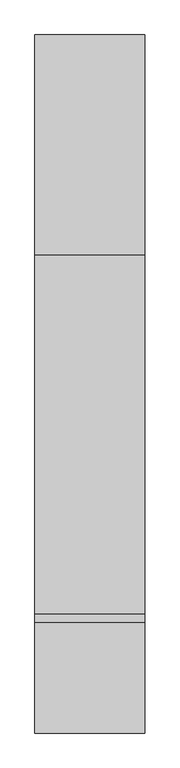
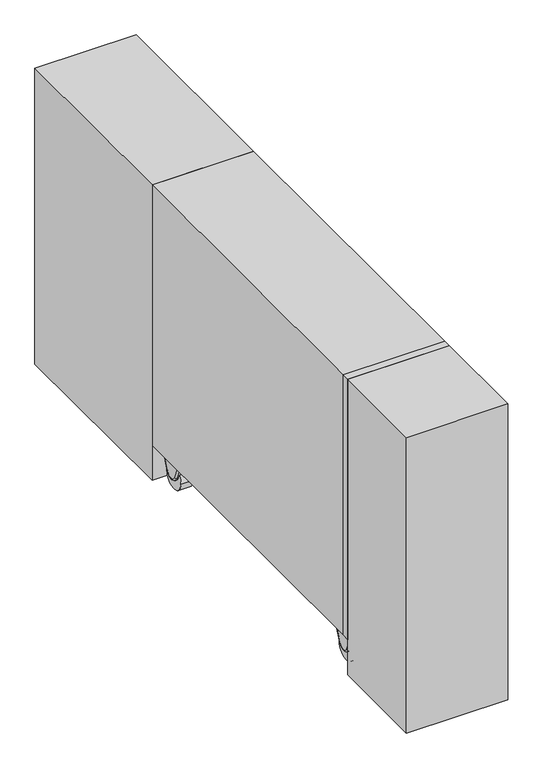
"""IFC4 building model written with IfcOpenShell, lengths in millimetres: proxy geometry, Трехфазный ИБП_ЛЕГИОН_СайберЭлектро : ЛЕГИОН-3Ф-40К."""

from ifc_helpers import new_model, si_unit, point, frame, origin, origin_with_axes, place, context, project, spatial, polyline, circle_curve, ellipse_curve, trimmed, outline, extrude, source, transform, mapped, element, save
from ifc_brep_helpers import plane_surface, cylinder_surface, revolved_surface, advanced_brep


def electrical_equipment_19901179(model_context):
    return source(origin(), model_context, "Body", "SolidModel", [
        advanced_brep(
        [(107.5584286, -22.026834, 73.0926887), (107.5584286, -31.2318826, 87.0), (107.5584286, -68.7681174, 87.0), (107.5584286, -77.973166, 73.0926887), (107.5584286, -63.8075728, 39.7206426), (107.5584286, -36.1924272, 39.7206426), (62.4415714, -31.2318826, 87.0), (62.4415714, -22.026834, 73.0926887), (62.4415714, -36.1924272, 39.7206426), (62.4415714, -63.8075728, 39.7206426), (62.4415714, -77.973166, 73.0926887), (62.4415714, -68.7681174, 87.0), (102.5584286, -31.2318826, 92.0), (67.4415641, -31.2318826, 92.0), (67.4415714, -68.7681174, 92.0), (102.5584286, -68.7681174, 92.0), (67.4415714, -82.5756902, 71.1390331), (102.5584286, -82.5756902, 71.1390331), (100.0, -73.1912444, 49.0306642), (100.0, -68.4100971, 37.7669869), (102.5584286, -68.4100971, 37.7669869), (67.4415714, -68.4100971, 37.7669869), (70.0, -68.4100971, 37.7669869), (70.0, -73.1912444, 49.0306642), (100.0, -31.5899029, 37.7669869), (102.5584286, -31.5899029, 37.7669869), (70.0, -31.5899029, 37.7669869), (67.4415714, -31.5899029, 37.7669869), (100.0, -26.8087556, 49.0306642), (70.0, -26.8087556, 49.0306642), (67.4415714, -17.4243098, 71.1390331), (102.5584286, -17.4243098, 71.1390331), (100.0, -80.0, 30.0), (100.0, -20.0, 30.0), (70.0, -20.0, 30.0), (70.0, -80.0, 30.0)],
        [
            (0, 1, circle_curve(frame((107.5584286, -31.2318826, 77.0), z_axis=(1.0, 0.0, 0.0), x_axis=(0.0, 0.0, 1.0)), 10.0)),
            (1, 2),
            (2, 3, circle_curve(frame((107.5584286, -68.7681174, 77.0), z_axis=(1.0, 0.0, 0.0), x_axis=(0.0, -0.9205048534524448, -0.3907311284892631)), 10.0)),
            (3, 4),
            (4, 5, circle_curve(frame((107.5584286, -50.0, 45.5816095), z_axis=(1.0, 0.0, 0.0), x_axis=(0.0, 0.9205048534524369, -0.3907311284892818)), 15.0)),
            (5, 0),
            (6, 7, circle_curve(frame((62.4415714, -31.2318826, 77.0), z_axis=(-1.0, 0.0, 0.0), x_axis=(0.0, 0.0, 1.0)), 10.0)),
            (7, 8),
            (8, 9, circle_curve(frame((62.4415714, -50.0, 45.5816095), z_axis=(-1.0, 0.0, 0.0), x_axis=(0.0, 0.9205048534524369, -0.3907311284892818)), 15.0)),
            (9, 10),
            (10, 11, circle_curve(frame((62.4415714, -68.7681174, 77.0), z_axis=(-1.0, 0.0, 0.0), x_axis=(0.0, -0.9205048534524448, -0.3907311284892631)), 10.0)),
            (11, 6),
            (12, 13),
            (13, 14),
            (14, 15),
            (15, 12),
            (14, 16, circle_curve(frame((67.4415714, -68.7681174, 77.0), z_axis=(1.0, 0.0, 0.0), x_axis=(0.0, 1.0, 0.0)), 15.0)),
            (16, 17),
            (17, 15, circle_curve(frame((102.5584286, -68.7681174, 77.0), z_axis=(-1.0, 0.0, 0.0), x_axis=(0.0, 1.0, 0.0)), 15.0)),
            (18, 19),
            (19, 20),
            (20, 17),
            (16, 21),
            (21, 22),
            (22, 23),
            (23, 18),
            (19, 24, circle_curve(frame((100.0, -50.0, 45.5816095), z_axis=(1.0, 0.0, 0.0), x_axis=(0.0, 1.0, 0.0)), 20.0)),
            (24, 25),
            (25, 20, circle_curve(frame((102.5584286, -50.0, 45.5816095), z_axis=(-1.0, 0.0, 0.0), x_axis=(0.0, 1.0, 0.0)), 20.0)),
            (26, 22, circle_curve(frame((70.0, -50.0, 45.5816095), z_axis=(-1.0, 0.0, 0.0), x_axis=(0.0, 1.0, 0.0)), 20.0)),
            (21, 27, circle_curve(frame((67.4415714, -50.0, 45.5816095), z_axis=(1.0, 0.0, 0.0), x_axis=(0.0, 1.0, 0.0)), 20.0)),
            (27, 26),
            (24, 28),
            (28, 29),
            (29, 26),
            (27, 30),
            (30, 31),
            (31, 25),
            (12, 31, circle_curve(frame((102.5584286, -31.2318826, 77.0), z_axis=(-1.0, 0.0, 0.0), x_axis=(0.0, 1.0, 0.0)), 15.0)),
            (30, 13, circle_curve(frame((67.4415714, -31.2318826, 77.0), z_axis=(1.0, 0.0, 0.0), x_axis=(0.0, 1.0, 0.0)), 15.0)),
            (32, 33, circle_curve(frame((100.0, -50.0, 30.0), z_axis=(1.0, 0.0, 0.0), x_axis=(0.0, -1.0, 0.0)), 30.0)),
            (33, 28, circle_curve(frame((100.0, -50.0, 30.0), z_axis=(1.0, 0.0, 0.0), x_axis=(0.0, -1.0, 0.0)), 30.0)),
            (18, 32, circle_curve(frame((100.0, -50.0, 30.0), z_axis=(1.0, 0.0, 0.0), x_axis=(0.0, -1.0, 0.0)), 30.0)),
            (34, 35, circle_curve(frame((70.0, -50.0, 30.0), z_axis=(-1.0, 0.0, 0.0), x_axis=(0.0, -1.0, 0.0)), 30.0)),
            (35, 23, circle_curve(frame((70.0, -50.0, 30.0), z_axis=(-1.0, 0.0, 0.0), x_axis=(0.0, -1.0, 0.0)), 30.0)),
            (29, 34, circle_curve(frame((70.0, -50.0, 30.0), z_axis=(-1.0, 0.0, 0.0), x_axis=(0.0, -1.0, 0.0)), 30.0)),
            (33, 34),
            (35, 32),
            (30, 7, circle_curve(frame((67.4415714, -22.026834, 73.0926887), z_axis=(0.0, 0.3907311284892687, 0.9205048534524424), x_axis=(-1.0, 0.0, 0.0)), 5.0)),
            (6, 13, circle_curve(frame((67.4415714, -31.2318826, 87.0), z_axis=(0.0, 1.0, 0.0), x_axis=(-1.0, 0.0, 0.0)), 5.0)),
            (0, 31, circle_curve(frame((102.5584286, -22.026834, 73.0926887), z_axis=(0.0, 0.3907311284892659, 0.9205048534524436), x_axis=(-1.0, 0.0, 0.0)), 5.0)),
            (12, 1, circle_curve(frame((102.5584286, -31.2318826, 87.0), z_axis=(0.0, 1.0, 0.0), x_axis=(-1.0, 0.0, 0.0)), 5.0)),
            (27, 8, circle_curve(frame((67.4415714, -36.1924272, 39.7206426), z_axis=(0.0, 0.3907311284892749, 0.9205048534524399), x_axis=(-1.0, 0.0, 0.0)), 5.0)),
            (5, 25, circle_curve(frame((102.5584286, -36.1924272, 39.7206426), z_axis=(0.0, 0.3907311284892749, 0.9205048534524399), x_axis=(-1.0, 0.0, 0.0)), 5.0)),
            (21, 9, circle_curve(frame((67.4415714, -63.8075728, 39.7206426), z_axis=(0.0, 0.39073112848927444, -0.9205048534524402), x_axis=(-1.0, 0.0, 0.0)), 5.0)),
            (4, 20, circle_curve(frame((102.5584286, -63.8075728, 39.7206426), z_axis=(0.0, 0.39073112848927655, -0.9205048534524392), x_axis=(-1.0, 0.0, 0.0)), 5.0)),
            (16, 10, circle_curve(frame((67.4415714, -77.973166, 73.0926887), z_axis=(0.0, 0.39073112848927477, -0.92050485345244), x_axis=(-1.0, 0.0, 0.0)), 5.0)),
            (3, 17, circle_curve(frame((102.5584286, -77.973166, 73.0926887), z_axis=(0.0, 0.39073112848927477, -0.92050485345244), x_axis=(-1.0, 0.0, 0.0)), 5.0)),
            (14, 11, circle_curve(frame((67.4415714, -68.7681174, 87.0), z_axis=(0.0, -1.0, 0.0), x_axis=(-1.0, 0.0, 0.0)), 5.0)),
            (2, 15, circle_curve(frame((102.5584286, -68.7681174, 87.0), z_axis=(0.0, -1.0, 0.0), x_axis=(-1.0, 0.0, 0.0)), 5.0)),
        ],
        [
            plane_surface(frame((107.5584286, -50.0, 92.0), z_axis=(1.0, 0.0, 0.0), x_axis=(0.0, -1.0, 0.0))),
            plane_surface(frame((62.4415714, -50.0, 92.0), z_axis=(-1.0, 0.0, 0.0), x_axis=(0.0, 1.0, 0.0))),
            plane_surface(frame((107.5584286, -31.2318826, 92.0), z_axis=(0.0, 0.0, 1.0), x_axis=(-1.0, 0.0, 0.0))),
            cylinder_surface(frame((62.4415714, -68.7681174, 77.0), z_axis=(1.0, 0.0, 0.0), x_axis=(0.0, 1.0, 0.0)), 15.0),
            plane_surface(frame((107.5584286, -82.5756902, 71.1390331), z_axis=(0.0, -0.9205048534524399, -0.39073112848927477), x_axis=(-1.0, 0.0, 0.0))),
            cylinder_surface(frame((62.4415714, -50.0, 45.5816095), z_axis=(1.0, 0.0, 0.0), x_axis=(0.0, 1.0, 0.0)), 20.0),
            plane_surface(frame((107.5584286, -31.5899029, 37.7669869), z_axis=(0.0, 0.9205048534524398, -0.3907311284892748), x_axis=(-1.0, 0.0, 0.0))),
            cylinder_surface(frame((62.4415714, -31.2318826, 77.0), z_axis=(1.0, 0.0, 0.0), x_axis=(0.0, 1.0, 0.0)), 15.0),
            plane_surface(frame((100.0, -80.0, 30.0), z_axis=(1.0, 0.0, 0.0), x_axis=(0.0, 0.0, -1.0))),
            plane_surface(frame((70.0, -80.0, 30.0), z_axis=(-1.0, 0.0, 0.0), x_axis=(0.0, 0.0, 1.0))),
            cylinder_surface(frame((70.0, -50.0, 30.0), z_axis=(1.0, 0.0, 0.0), x_axis=(0.0, -1.0, 0.0)), 30.0),
            revolved_surface(trimmed(ellipse_curve(frame((67.4415714, -31.2318826, 87.0), z_axis=(0.0, -1.0, 0.0), x_axis=(-1.0, 0.0, 0.0)), 5.0, 5.0), [point((67.4415714, -31.2318826, 92.0))], [point((62.4415714, -31.2318826, 87.0))], True, "CARTESIAN"), (62.4415714, -31.2318826, 77.0), (-1.0, 0.0, 0.0)),
            revolved_surface(trimmed(ellipse_curve(frame((102.5584286, -31.2318826, 87.0), z_axis=(0.0, -1.0, 0.0), x_axis=(-1.0, 0.0, 0.0)), 5.0, 5.0), [point((107.5584286, -31.2318826, 87.0))], [point((102.5584286, -31.2318826, 92.0))], True, "CARTESIAN"), (62.4415714, -31.2318826, 77.0), (-1.0, 0.0, 0.0)),
            cylinder_surface(frame((67.4415714, -22.026834, 73.0926887), z_axis=(0.0, -0.3907311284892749, -0.9205048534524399), x_axis=(-1.0, 0.0, 0.0)), 5.0),
            cylinder_surface(frame((102.5584286, -22.026834, 73.0926887), z_axis=(0.0, -0.3907311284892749, -0.9205048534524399), x_axis=(-1.0, 0.0, 0.0)), 5.0),
            revolved_surface(trimmed(ellipse_curve(frame((67.4415714, -36.1924272, 39.7206426), z_axis=(0.0, 0.39073112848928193, 0.9205048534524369), x_axis=(-1.0, 0.0, 0.0)), 5.0, 5.0), [point((67.4415714, -31.5899029, 37.7669869))], [point((62.4415714, -36.1924272, 39.7206426))], True, "CARTESIAN"), (62.4415714, -50.0, 45.5816095), (-1.0, 0.0, 0.0)),
            revolved_surface(trimmed(ellipse_curve(frame((102.5584286, -36.1924272, 39.7206426), z_axis=(0.0, 0.39073112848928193, 0.9205048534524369), x_axis=(-1.0, 0.0, 0.0)), 5.0, 5.0), [point((107.5584286, -36.1924272, 39.7206426))], [point((102.5584286, -31.5899029, 37.7669869))], True, "CARTESIAN"), (62.4415714, -50.0, 45.5816095), (-1.0, 0.0, 0.0)),
            cylinder_surface(frame((67.4415714, -63.8075728, 39.7206426), z_axis=(0.0, -0.39073112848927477, 0.92050485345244), x_axis=(-1.0, 0.0, 0.0)), 5.0),
            cylinder_surface(frame((102.5584286, -63.8075728, 39.7206426), z_axis=(0.0, -0.39073112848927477, 0.92050485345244), x_axis=(-1.0, 0.0, 0.0)), 5.0),
            revolved_surface(trimmed(ellipse_curve(frame((67.4415714, -77.973166, 73.0926887), z_axis=(0.0, 0.39073112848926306, -0.9205048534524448), x_axis=(-1.0, 0.0, 0.0)), 5.0, 5.0), [point((67.4415714, -82.5756902, 71.1390331))], [point((62.4415714, -77.973166, 73.0926887))], True, "CARTESIAN"), (62.4415714, -68.7681174, 77.0), (-1.0, 0.0, 0.0)),
            revolved_surface(trimmed(ellipse_curve(frame((102.5584286, -77.973166, 73.0926887), z_axis=(0.0, 0.39073112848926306, -0.9205048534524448), x_axis=(-1.0, 0.0, 0.0)), 5.0, 5.0), [point((107.5584286, -77.973166, 73.0926887))], [point((102.5584286, -82.5756902, 71.1390331))], True, "CARTESIAN"), (62.4415714, -68.7681174, 77.0), (-1.0, 0.0, 0.0)),
            cylinder_surface(frame((67.4415714, -68.7681174, 87.0), z_axis=(0.0, 1.0, 0.0), x_axis=(-1.0, 0.0, 0.0)), 5.0),
            cylinder_surface(frame((102.5584286, -68.7681174, 87.0), z_axis=(0.0, 1.0, 0.0), x_axis=(-1.0, 0.0, 0.0)), 5.0),
        ],
        [
            (0, [[1, 2, 3, 4, 5, 6]]),
            (1, [[7, 8, 9, 10, 11, 12]]),
            (2, [[13, 14, 15, 16]]),
            (3, [[-15, 17, 18, 19]]),
            (4, [[20, 21, 22, -18, 23, 24, 25, 26]]),
            (5, [[27, 28, 29, -21]]),
            (5, [[30, -24, 31, 32]]),
            (6, [[33, 34, 35, -32, 36, 37, 38, -28]]),
            (7, [[-13, 39, -37, 40]]),
            (8, [[41, 42, -33, -27, -20, 43]]),
            (9, [[44, 45, -25, -30, -35, 46]]),
            (10, [[47, -46, -34, -42]]),
            (10, [[48, -43, -26, -45]]),
            (10, [[-41, -48, -44, -47]]),
            (11, [[49, -7, 50, -40]]),
            (12, [[51, -39, 52, -1]]),
            (13, [[-49, -36, 53, -8]]),
            (14, [[-51, -6, 54, -38]]),
            (15, [[-53, -31, 55, -9]]),
            (16, [[-54, -5, 56, -29]]),
            (17, [[-55, -23, 57, -10]]),
            (18, [[-56, -4, 58, -22]]),
            (19, [[-57, -17, 59, -11]]),
            (20, [[-58, -3, 60, -19]]),
            (21, [[-50, -12, -59, -14]]),
            (22, [[-52, -16, -60, -2]]),
        ],
    ),
        advanced_brep(
        [(-62.4415714, -22.026834, 73.0926887), (-62.4415714, -31.2318826, 87.0), (-62.4415714, -68.7681174, 87.0), (-62.4415714, -77.973166, 73.0926887), (-62.4415714, -63.8075728, 39.7206426), (-62.4415714, -36.1924272, 39.7206426), (-107.5584286, -31.2318826, 87.0), (-107.5584286, -22.026834, 73.0926887), (-107.5584286, -36.1924272, 39.7206426), (-107.5584286, -63.8075728, 39.7206426), (-107.5584286, -77.973166, 73.0926887), (-107.5584286, -68.7681174, 87.0), (-67.4415714, -31.2318826, 92.0), (-102.5584359, -31.2318826, 92.0), (-102.5584286, -68.7681174, 92.0), (-67.4415714, -68.7681174, 92.0), (-102.5584286, -82.5756902, 71.1390331), (-67.4415714, -82.5756902, 71.1390331), (-70.0, -73.1912444, 49.0306642), (-70.0, -68.4100971, 37.7669869), (-67.4415714, -68.4100971, 37.7669869), (-102.5584286, -68.4100971, 37.7669869), (-100.0, -68.4100971, 37.7669869), (-100.0, -73.1912444, 49.0306642), (-70.0, -31.5899029, 37.7669869), (-67.4415714, -31.5899029, 37.7669869), (-100.0, -31.5899029, 37.7669869), (-102.5584286, -31.5899029, 37.7669869), (-70.0, -26.8087556, 49.0306642), (-100.0, -26.8087556, 49.0306642), (-102.5584286, -17.4243098, 71.1390331), (-67.4415714, -17.4243098, 71.1390331), (-70.0, -80.0, 30.0), (-70.0, -20.0, 30.0), (-100.0, -20.0, 30.0), (-100.0, -80.0, 30.0)],
        [
            (0, 1, circle_curve(frame((-62.4415714, -31.2318826, 77.0), z_axis=(1.0, 0.0, 0.0), x_axis=(0.0, 0.0, 1.0)), 10.0)),
            (1, 2),
            (2, 3, circle_curve(frame((-62.4415714, -68.7681174, 77.0), z_axis=(1.0, 0.0, 0.0), x_axis=(0.0, -0.9205048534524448, -0.3907311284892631)), 10.0)),
            (3, 4),
            (4, 5, circle_curve(frame((-62.4415714, -50.0, 45.5816095), z_axis=(1.0, 0.0, 0.0), x_axis=(0.0, 0.9205048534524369, -0.3907311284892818)), 15.0)),
            (5, 0),
            (6, 7, circle_curve(frame((-107.5584286, -31.2318826, 77.0), z_axis=(-1.0, 0.0, 0.0), x_axis=(0.0, 0.0, 1.0)), 10.0)),
            (7, 8),
            (8, 9, circle_curve(frame((-107.5584286, -50.0, 45.5816095), z_axis=(-1.0, 0.0, 0.0), x_axis=(0.0, 0.9205048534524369, -0.3907311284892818)), 15.0)),
            (9, 10),
            (10, 11, circle_curve(frame((-107.5584286, -68.7681174, 77.0), z_axis=(-1.0, 0.0, 0.0), x_axis=(0.0, -0.9205048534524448, -0.3907311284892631)), 10.0)),
            (11, 6),
            (12, 13),
            (13, 14),
            (14, 15),
            (15, 12),
            (14, 16, circle_curve(frame((-102.5584286, -68.7681174, 77.0), z_axis=(1.0, 0.0, 0.0), x_axis=(0.0, 1.0, 0.0)), 15.0)),
            (16, 17),
            (17, 15, circle_curve(frame((-67.4415714, -68.7681174, 77.0), z_axis=(-1.0, 0.0, 0.0), x_axis=(0.0, 1.0, 0.0)), 15.0)),
            (18, 19),
            (19, 20),
            (20, 17),
            (16, 21),
            (21, 22),
            (22, 23),
            (23, 18),
            (19, 24, circle_curve(frame((-70.0, -50.0, 45.5816095), z_axis=(1.0, 0.0, 0.0), x_axis=(0.0, 1.0, 0.0)), 20.0)),
            (24, 25),
            (25, 20, circle_curve(frame((-67.4415714, -50.0, 45.5816095), z_axis=(-1.0, 0.0, 0.0), x_axis=(0.0, 1.0, 0.0)), 20.0)),
            (26, 22, circle_curve(frame((-100.0, -50.0, 45.5816095), z_axis=(-1.0, 0.0, 0.0), x_axis=(0.0, 1.0, 0.0)), 20.0)),
            (21, 27, circle_curve(frame((-102.5584286, -50.0, 45.5816095), z_axis=(1.0, 0.0, 0.0), x_axis=(0.0, 1.0, 0.0)), 20.0)),
            (27, 26),
            (24, 28),
            (28, 29),
            (29, 26),
            (27, 30),
            (30, 31),
            (31, 25),
            (12, 31, circle_curve(frame((-67.4415714, -31.2318826, 77.0), z_axis=(-1.0, 0.0, 0.0), x_axis=(0.0, 1.0, 0.0)), 15.0)),
            (30, 13, circle_curve(frame((-102.5584286, -31.2318826, 77.0), z_axis=(1.0, 0.0, 0.0), x_axis=(0.0, 1.0, 0.0)), 15.0)),
            (32, 33, circle_curve(frame((-70.0, -50.0, 30.0), z_axis=(1.0, 0.0, 0.0), x_axis=(0.0, -1.0, 0.0)), 30.0)),
            (33, 28, circle_curve(frame((-70.0, -50.0, 30.0), z_axis=(1.0, 0.0, 0.0), x_axis=(0.0, -1.0, 0.0)), 30.0)),
            (18, 32, circle_curve(frame((-70.0, -50.0, 30.0), z_axis=(1.0, 0.0, 0.0), x_axis=(0.0, -1.0, 0.0)), 30.0)),
            (34, 35, circle_curve(frame((-100.0, -50.0, 30.0), z_axis=(-1.0, 0.0, 0.0), x_axis=(0.0, -1.0, 0.0)), 30.0)),
            (35, 23, circle_curve(frame((-100.0, -50.0, 30.0), z_axis=(-1.0, 0.0, 0.0), x_axis=(0.0, -1.0, 0.0)), 30.0)),
            (29, 34, circle_curve(frame((-100.0, -50.0, 30.0), z_axis=(-1.0, 0.0, 0.0), x_axis=(0.0, -1.0, 0.0)), 30.0)),
            (33, 34),
            (35, 32),
            (30, 7, circle_curve(frame((-102.5584286, -22.026834, 73.0926887), z_axis=(0.0, 0.3907311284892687, 0.9205048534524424), x_axis=(-1.0, 0.0, 0.0)), 5.0)),
            (6, 13, circle_curve(frame((-102.5584286, -31.2318826, 87.0), z_axis=(0.0, 1.0, 0.0), x_axis=(-1.0, 0.0, 0.0)), 5.0)),
            (0, 31, circle_curve(frame((-67.4415714, -22.026834, 73.0926887), z_axis=(0.0, 0.3907311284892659, 0.9205048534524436), x_axis=(-1.0, 0.0, 0.0)), 5.0)),
            (12, 1, circle_curve(frame((-67.4415714, -31.2318826, 87.0), z_axis=(0.0, 1.0, 0.0), x_axis=(-1.0, 0.0, 0.0)), 5.0)),
            (27, 8, circle_curve(frame((-102.5584286, -36.1924272, 39.7206426), z_axis=(0.0, 0.3907311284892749, 0.9205048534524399), x_axis=(-1.0, 0.0, 0.0)), 5.0)),
            (5, 25, circle_curve(frame((-67.4415714, -36.1924272, 39.7206426), z_axis=(0.0, 0.3907311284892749, 0.9205048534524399), x_axis=(-1.0, 0.0, 0.0)), 5.0)),
            (21, 9, circle_curve(frame((-102.5584286, -63.8075728, 39.7206426), z_axis=(0.0, 0.39073112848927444, -0.9205048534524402), x_axis=(-1.0, 0.0, 0.0)), 5.0)),
            (4, 20, circle_curve(frame((-67.4415714, -63.8075728, 39.7206426), z_axis=(0.0, 0.39073112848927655, -0.9205048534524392), x_axis=(-1.0, 0.0, 0.0)), 5.0)),
            (16, 10, circle_curve(frame((-102.5584286, -77.973166, 73.0926887), z_axis=(0.0, 0.39073112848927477, -0.92050485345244), x_axis=(-1.0, 0.0, 0.0)), 5.0)),
            (3, 17, circle_curve(frame((-67.4415714, -77.973166, 73.0926887), z_axis=(0.0, 0.39073112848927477, -0.92050485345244), x_axis=(-1.0, 0.0, 0.0)), 5.0)),
            (14, 11, circle_curve(frame((-102.5584286, -68.7681174, 87.0), z_axis=(0.0, -1.0, 0.0), x_axis=(-1.0, 0.0, 0.0)), 5.0)),
            (2, 15, circle_curve(frame((-67.4415714, -68.7681174, 87.0), z_axis=(0.0, -1.0, 0.0), x_axis=(-1.0, 0.0, 0.0)), 5.0)),
        ],
        [
            plane_surface(frame((-62.4415714, -50.0, 92.0), z_axis=(1.0, 0.0, 0.0), x_axis=(0.0, -1.0, 0.0))),
            plane_surface(frame((-107.5584286, -50.0, 92.0), z_axis=(-1.0, 0.0, 0.0), x_axis=(0.0, 1.0, 0.0))),
            plane_surface(frame((-62.4415714, -31.2318826, 92.0), z_axis=(0.0, 0.0, 1.0), x_axis=(-1.0, 0.0, 0.0))),
            cylinder_surface(frame((-107.5584286, -68.7681174, 77.0), z_axis=(1.0, 0.0, 0.0), x_axis=(0.0, 1.0, 0.0)), 15.0),
            plane_surface(frame((-62.4415714, -82.5756902, 71.1390331), z_axis=(0.0, -0.9205048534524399, -0.39073112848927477), x_axis=(-1.0, 0.0, 0.0))),
            cylinder_surface(frame((-107.5584286, -50.0, 45.5816095), z_axis=(1.0, 0.0, 0.0), x_axis=(0.0, 1.0, 0.0)), 20.0),
            plane_surface(frame((-62.4415714, -31.5899029, 37.7669869), z_axis=(0.0, 0.9205048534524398, -0.3907311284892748), x_axis=(-1.0, 0.0, 0.0))),
            cylinder_surface(frame((-107.5584286, -31.2318826, 77.0), z_axis=(1.0, 0.0, 0.0), x_axis=(0.0, 1.0, 0.0)), 15.0),
            plane_surface(frame((-70.0, -80.0, 30.0), z_axis=(1.0, 0.0, 0.0), x_axis=(0.0, 0.0, -1.0))),
            plane_surface(frame((-100.0, -80.0, 30.0), z_axis=(-1.0, 0.0, 0.0), x_axis=(0.0, 0.0, 1.0))),
            cylinder_surface(frame((-100.0, -50.0, 30.0), z_axis=(1.0, 0.0, 0.0), x_axis=(0.0, -1.0, 0.0)), 30.0),
            revolved_surface(trimmed(ellipse_curve(frame((-102.5584286, -31.2318826, 87.0), z_axis=(0.0, -1.0, 0.0), x_axis=(-1.0, 0.0, 0.0)), 5.0, 5.0), [point((-102.5584286, -31.2318826, 92.0))], [point((-107.5584286, -31.2318826, 87.0))], True, "CARTESIAN"), (-107.5584286, -31.2318826, 77.0), (-1.0, 0.0, 0.0)),
            revolved_surface(trimmed(ellipse_curve(frame((-67.4415714, -31.2318826, 87.0), z_axis=(0.0, -1.0, 0.0), x_axis=(-1.0, 0.0, 0.0)), 5.0, 5.0), [point((-62.4415714, -31.2318826, 87.0))], [point((-67.4415714, -31.2318826, 92.0))], True, "CARTESIAN"), (-107.5584286, -31.2318826, 77.0), (-1.0, 0.0, 0.0)),
            cylinder_surface(frame((-102.5584286, -22.026834, 73.0926887), z_axis=(0.0, -0.3907311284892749, -0.9205048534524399), x_axis=(-1.0, 0.0, 0.0)), 5.0),
            cylinder_surface(frame((-67.4415714, -22.026834, 73.0926887), z_axis=(0.0, -0.3907311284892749, -0.9205048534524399), x_axis=(-1.0, 0.0, 0.0)), 5.0),
            revolved_surface(trimmed(ellipse_curve(frame((-102.5584286, -36.1924272, 39.7206426), z_axis=(0.0, 0.39073112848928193, 0.9205048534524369), x_axis=(-1.0, 0.0, 0.0)), 5.0, 5.0), [point((-102.5584286, -31.5899029, 37.7669869))], [point((-107.5584286, -36.1924272, 39.7206426))], True, "CARTESIAN"), (-107.5584286, -50.0, 45.5816095), (-1.0, 0.0, 0.0)),
            revolved_surface(trimmed(ellipse_curve(frame((-67.4415714, -36.1924272, 39.7206426), z_axis=(0.0, 0.39073112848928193, 0.9205048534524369), x_axis=(-1.0, 0.0, 0.0)), 5.0, 5.0), [point((-62.4415714, -36.1924272, 39.7206426))], [point((-67.4415714, -31.5899029, 37.7669869))], True, "CARTESIAN"), (-107.5584286, -50.0, 45.5816095), (-1.0, 0.0, 0.0)),
            cylinder_surface(frame((-102.5584286, -63.8075728, 39.7206426), z_axis=(0.0, -0.39073112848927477, 0.92050485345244), x_axis=(-1.0, 0.0, 0.0)), 5.0),
            cylinder_surface(frame((-67.4415714, -63.8075728, 39.7206426), z_axis=(0.0, -0.39073112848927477, 0.92050485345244), x_axis=(-1.0, 0.0, 0.0)), 5.0),
            revolved_surface(trimmed(ellipse_curve(frame((-102.5584286, -77.973166, 73.0926887), z_axis=(0.0, 0.39073112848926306, -0.9205048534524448), x_axis=(-1.0, 0.0, 0.0)), 5.0, 5.0), [point((-102.5584286, -82.5756902, 71.1390331))], [point((-107.5584286, -77.973166, 73.0926887))], True, "CARTESIAN"), (-107.5584286, -68.7681174, 77.0), (-1.0, 0.0, 0.0)),
            revolved_surface(trimmed(ellipse_curve(frame((-67.4415714, -77.973166, 73.0926887), z_axis=(0.0, 0.39073112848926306, -0.9205048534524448), x_axis=(-1.0, 0.0, 0.0)), 5.0, 5.0), [point((-62.4415714, -77.973166, 73.0926887))], [point((-67.4415714, -82.5756902, 71.1390331))], True, "CARTESIAN"), (-107.5584286, -68.7681174, 77.0), (-1.0, 0.0, 0.0)),
            cylinder_surface(frame((-102.5584286, -68.7681174, 87.0), z_axis=(0.0, 1.0, 0.0), x_axis=(-1.0, 0.0, 0.0)), 5.0),
            cylinder_surface(frame((-67.4415714, -68.7681174, 87.0), z_axis=(0.0, 1.0, 0.0), x_axis=(-1.0, 0.0, 0.0)), 5.0),
        ],
        [
            (0, [[1, 2, 3, 4, 5, 6]]),
            (1, [[7, 8, 9, 10, 11, 12]]),
            (2, [[13, 14, 15, 16]]),
            (3, [[-15, 17, 18, 19]]),
            (4, [[20, 21, 22, -18, 23, 24, 25, 26]]),
            (5, [[27, 28, 29, -21]]),
            (5, [[30, -24, 31, 32]]),
            (6, [[33, 34, 35, -32, 36, 37, 38, -28]]),
            (7, [[-13, 39, -37, 40]]),
            (8, [[41, 42, -33, -27, -20, 43]]),
            (9, [[44, 45, -25, -30, -35, 46]]),
            (10, [[47, -46, -34, -42]]),
            (10, [[48, -43, -26, -45]]),
            (10, [[-41, -48, -44, -47]]),
            (11, [[49, -7, 50, -40]]),
            (12, [[51, -39, 52, -1]]),
            (13, [[-49, -36, 53, -8]]),
            (14, [[-51, -6, 54, -38]]),
            (15, [[-53, -31, 55, -9]]),
            (16, [[-54, -5, 56, -29]]),
            (17, [[-55, -23, 57, -10]]),
            (18, [[-56, -4, 58, -22]]),
            (19, [[-57, -17, 59, -11]]),
            (20, [[-58, -3, 60, -19]]),
            (21, [[-50, -12, -59, -14]]),
            (22, [[-52, -16, -60, -2]]),
        ],
    ),
        advanced_brep(
        [(107.5584286, -758.026834, 73.0926887), (107.5584286, -767.2318826, 87.0), (107.5584286, -804.7681174, 87.0), (107.5584286, -813.973166, 73.0926887), (107.5584286, -799.8075728, 39.7206426), (107.5584286, -772.1924272, 39.7206426), (62.4415714, -767.2318826, 87.0), (62.4415714, -758.026834, 73.0926887), (62.4415714, -772.1924272, 39.7206426), (62.4415714, -799.8075728, 39.7206426), (62.4415714, -813.973166, 73.0926887), (62.4415714, -804.7681174, 87.0), (102.5584286, -767.2318826, 92.0), (67.4415641, -767.2318826, 92.0), (67.4415714, -804.7681174, 92.0), (102.5584286, -804.7681174, 92.0), (67.4415714, -818.5756902, 71.1390331), (102.5584286, -818.5756902, 71.1390331), (100.0, -809.1912444, 49.0306642), (100.0, -804.4100971, 37.7669869), (102.5584286, -804.4100971, 37.7669869), (67.4415714, -804.4100971, 37.7669869), (70.0, -804.4100971, 37.7669869), (70.0, -809.1912444, 49.0306642), (100.0, -767.5899029, 37.7669869), (102.5584286, -767.5899029, 37.7669869), (70.0, -767.5899029, 37.7669869), (67.4415714, -767.5899029, 37.7669869), (100.0, -762.8087556, 49.0306642), (70.0, -762.8087556, 49.0306642), (67.4415714, -753.4243098, 71.1390331), (102.5584286, -753.4243098, 71.1390331), (100.0, -816.0, 30.0), (100.0, -756.0, 30.0), (70.0, -756.0, 30.0), (70.0, -816.0, 30.0)],
        [
            (0, 1, circle_curve(frame((107.5584286, -767.2318826, 77.0), z_axis=(1.0, 0.0, 0.0), x_axis=(0.0, 0.0, 1.0)), 10.0)),
            (1, 2),
            (2, 3, circle_curve(frame((107.5584286, -804.7681174, 77.0), z_axis=(1.0, 0.0, 0.0), x_axis=(0.0, -0.9205048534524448, -0.3907311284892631)), 10.0)),
            (3, 4),
            (4, 5, circle_curve(frame((107.5584286, -786.0, 45.5816095), z_axis=(1.0, 0.0, 0.0), x_axis=(0.0, 0.9205048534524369, -0.3907311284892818)), 15.0)),
            (5, 0),
            (6, 7, circle_curve(frame((62.4415714, -767.2318826, 77.0), z_axis=(-1.0, 0.0, 0.0), x_axis=(0.0, 0.0, 1.0)), 10.0)),
            (7, 8),
            (8, 9, circle_curve(frame((62.4415714, -786.0, 45.5816095), z_axis=(-1.0, 0.0, 0.0), x_axis=(0.0, 0.9205048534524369, -0.3907311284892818)), 15.0)),
            (9, 10),
            (10, 11, circle_curve(frame((62.4415714, -804.7681174, 77.0), z_axis=(-1.0, 0.0, 0.0), x_axis=(0.0, -0.9205048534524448, -0.3907311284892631)), 10.0)),
            (11, 6),
            (12, 13),
            (13, 14),
            (14, 15),
            (15, 12),
            (14, 16, circle_curve(frame((67.4415714, -804.7681174, 77.0), z_axis=(1.0, 0.0, 0.0), x_axis=(0.0, 1.0, 0.0)), 15.0)),
            (16, 17),
            (17, 15, circle_curve(frame((102.5584286, -804.7681174, 77.0), z_axis=(-1.0, 0.0, 0.0), x_axis=(0.0, 1.0, 0.0)), 15.0)),
            (18, 19),
            (19, 20),
            (20, 17),
            (16, 21),
            (21, 22),
            (22, 23),
            (23, 18),
            (19, 24, circle_curve(frame((100.0, -786.0, 45.5816095), z_axis=(1.0, 0.0, 0.0), x_axis=(0.0, 1.0, 0.0)), 20.0)),
            (24, 25),
            (25, 20, circle_curve(frame((102.5584286, -786.0, 45.5816095), z_axis=(-1.0, 0.0, 0.0), x_axis=(0.0, 1.0, 0.0)), 20.0)),
            (26, 22, circle_curve(frame((70.0, -786.0, 45.5816095), z_axis=(-1.0, 0.0, 0.0), x_axis=(0.0, 1.0, 0.0)), 20.0)),
            (21, 27, circle_curve(frame((67.4415714, -786.0, 45.5816095), z_axis=(1.0, 0.0, 0.0), x_axis=(0.0, 1.0, 0.0)), 20.0)),
            (27, 26),
            (24, 28),
            (28, 29),
            (29, 26),
            (27, 30),
            (30, 31),
            (31, 25),
            (12, 31, circle_curve(frame((102.5584286, -767.2318826, 77.0), z_axis=(-1.0, 0.0, 0.0), x_axis=(0.0, 1.0, 0.0)), 15.0)),
            (30, 13, circle_curve(frame((67.4415714, -767.2318826, 77.0), z_axis=(1.0, 0.0, 0.0), x_axis=(0.0, 1.0, 0.0)), 15.0)),
            (32, 33, circle_curve(frame((100.0, -786.0, 30.0), z_axis=(1.0, 0.0, 0.0), x_axis=(0.0, -1.0, 0.0)), 30.0)),
            (33, 28, circle_curve(frame((100.0, -786.0, 30.0), z_axis=(1.0, 0.0, 0.0), x_axis=(0.0, -1.0, 0.0)), 30.0)),
            (18, 32, circle_curve(frame((100.0, -786.0, 30.0), z_axis=(1.0, 0.0, 0.0), x_axis=(0.0, -1.0, 0.0)), 30.0)),
            (34, 35, circle_curve(frame((70.0, -786.0, 30.0), z_axis=(-1.0, 0.0, 0.0), x_axis=(0.0, -1.0, 0.0)), 30.0)),
            (35, 23, circle_curve(frame((70.0, -786.0, 30.0), z_axis=(-1.0, 0.0, 0.0), x_axis=(0.0, -1.0, 0.0)), 30.0)),
            (29, 34, circle_curve(frame((70.0, -786.0, 30.0), z_axis=(-1.0, 0.0, 0.0), x_axis=(0.0, -1.0, 0.0)), 30.0)),
            (33, 34),
            (35, 32),
            (30, 7, circle_curve(frame((67.4415714, -758.026834, 73.0926887), z_axis=(0.0, 0.3907311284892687, 0.9205048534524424), x_axis=(-1.0, 0.0, 0.0)), 5.0)),
            (6, 13, circle_curve(frame((67.4415714, -767.2318826, 87.0), z_axis=(0.0, 1.0, 0.0), x_axis=(-1.0, 0.0, 0.0)), 5.0)),
            (0, 31, circle_curve(frame((102.5584286, -758.026834, 73.0926887), z_axis=(0.0, 0.3907311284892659, 0.9205048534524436), x_axis=(-1.0, 0.0, 0.0)), 5.0)),
            (12, 1, circle_curve(frame((102.5584286, -767.2318826, 87.0), z_axis=(0.0, 1.0, 0.0), x_axis=(-1.0, 0.0, 0.0)), 5.0)),
            (27, 8, circle_curve(frame((67.4415714, -772.1924272, 39.7206426), z_axis=(0.0, 0.3907311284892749, 0.9205048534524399), x_axis=(-1.0, 0.0, 0.0)), 5.0)),
            (5, 25, circle_curve(frame((102.5584286, -772.1924272, 39.7206426), z_axis=(0.0, 0.3907311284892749, 0.9205048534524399), x_axis=(-1.0, 0.0, 0.0)), 5.0)),
            (21, 9, circle_curve(frame((67.4415714, -799.8075728, 39.7206426), z_axis=(0.0, 0.39073112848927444, -0.9205048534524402), x_axis=(-1.0, 0.0, 0.0)), 5.0)),
            (4, 20, circle_curve(frame((102.5584286, -799.8075728, 39.7206426), z_axis=(0.0, 0.39073112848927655, -0.9205048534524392), x_axis=(-1.0, 0.0, 0.0)), 5.0)),
            (16, 10, circle_curve(frame((67.4415714, -813.973166, 73.0926887), z_axis=(0.0, 0.39073112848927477, -0.92050485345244), x_axis=(-1.0, 0.0, 0.0)), 5.0)),
            (3, 17, circle_curve(frame((102.5584286, -813.973166, 73.0926887), z_axis=(0.0, 0.39073112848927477, -0.92050485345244), x_axis=(-1.0, 0.0, 0.0)), 5.0)),
            (14, 11, circle_curve(frame((67.4415714, -804.7681174, 87.0), z_axis=(0.0, -1.0, 0.0), x_axis=(-1.0, 0.0, 0.0)), 5.0)),
            (2, 15, circle_curve(frame((102.5584286, -804.7681174, 87.0), z_axis=(0.0, -1.0, 0.0), x_axis=(-1.0, 0.0, 0.0)), 5.0)),
        ],
        [
            plane_surface(frame((107.5584286, -786.0, 92.0), z_axis=(1.0, 0.0, 0.0), x_axis=(0.0, -1.0, 0.0))),
            plane_surface(frame((62.4415714, -786.0, 92.0), z_axis=(-1.0, 0.0, 0.0), x_axis=(0.0, 1.0, 0.0))),
            plane_surface(frame((107.5584286, -767.2318826, 92.0), z_axis=(0.0, 0.0, 1.0), x_axis=(-1.0, 0.0, 0.0))),
            cylinder_surface(frame((62.4415714, -804.7681174, 77.0), z_axis=(1.0, 0.0, 0.0), x_axis=(0.0, 1.0, 0.0)), 15.0),
            plane_surface(frame((107.5584286, -818.5756902, 71.1390331), z_axis=(0.0, -0.9205048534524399, -0.39073112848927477), x_axis=(-1.0, 0.0, 0.0))),
            cylinder_surface(frame((62.4415714, -786.0, 45.5816095), z_axis=(1.0, 0.0, 0.0), x_axis=(0.0, 1.0, 0.0)), 20.0),
            plane_surface(frame((107.5584286, -767.5899029, 37.7669869), z_axis=(0.0, 0.9205048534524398, -0.3907311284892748), x_axis=(-1.0, 0.0, 0.0))),
            cylinder_surface(frame((62.4415714, -767.2318826, 77.0), z_axis=(1.0, 0.0, 0.0), x_axis=(0.0, 1.0, 0.0)), 15.0),
            plane_surface(frame((100.0, -816.0, 30.0), z_axis=(1.0, 0.0, 0.0), x_axis=(0.0, 0.0, -1.0))),
            plane_surface(frame((70.0, -816.0, 30.0), z_axis=(-1.0, 0.0, 0.0), x_axis=(0.0, 0.0, 1.0))),
            cylinder_surface(frame((70.0, -786.0, 30.0), z_axis=(1.0, 0.0, 0.0), x_axis=(0.0, -1.0, 0.0)), 30.0),
            revolved_surface(trimmed(ellipse_curve(frame((67.4415714, -767.2318826, 87.0), z_axis=(0.0, -1.0, 0.0), x_axis=(-1.0, 0.0, 0.0)), 5.0, 5.0), [point((67.4415714, -767.2318826, 92.0))], [point((62.4415714, -767.2318826, 87.0))], True, "CARTESIAN"), (62.4415714, -767.2318826, 77.0), (-1.0, 0.0, 0.0)),
            revolved_surface(trimmed(ellipse_curve(frame((102.5584286, -767.2318826, 87.0), z_axis=(0.0, -1.0, 0.0), x_axis=(-1.0, 0.0, 0.0)), 5.0, 5.0), [point((107.5584286, -767.2318826, 87.0))], [point((102.5584286, -767.2318826, 92.0))], True, "CARTESIAN"), (62.4415714, -767.2318826, 77.0), (-1.0, 0.0, 0.0)),
            cylinder_surface(frame((67.4415714, -758.026834, 73.0926887), z_axis=(0.0, -0.3907311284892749, -0.9205048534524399), x_axis=(-1.0, 0.0, 0.0)), 5.0),
            cylinder_surface(frame((102.5584286, -758.026834, 73.0926887), z_axis=(0.0, -0.3907311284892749, -0.9205048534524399), x_axis=(-1.0, 0.0, 0.0)), 5.0),
            revolved_surface(trimmed(ellipse_curve(frame((67.4415714, -772.1924272, 39.7206426), z_axis=(0.0, 0.39073112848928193, 0.9205048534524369), x_axis=(-1.0, 0.0, 0.0)), 5.0, 5.0), [point((67.4415714, -767.5899029, 37.7669869))], [point((62.4415714, -772.1924272, 39.7206426))], True, "CARTESIAN"), (62.4415714, -786.0, 45.5816095), (-1.0, 0.0, 0.0)),
            revolved_surface(trimmed(ellipse_curve(frame((102.5584286, -772.1924272, 39.7206426), z_axis=(0.0, 0.39073112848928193, 0.9205048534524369), x_axis=(-1.0, 0.0, 0.0)), 5.0, 5.0), [point((107.5584286, -772.1924272, 39.7206426))], [point((102.5584286, -767.5899029, 37.7669869))], True, "CARTESIAN"), (62.4415714, -786.0, 45.5816095), (-1.0, 0.0, 0.0)),
            cylinder_surface(frame((67.4415714, -799.8075728, 39.7206426), z_axis=(0.0, -0.39073112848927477, 0.92050485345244), x_axis=(-1.0, 0.0, 0.0)), 5.0),
            cylinder_surface(frame((102.5584286, -799.8075728, 39.7206426), z_axis=(0.0, -0.39073112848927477, 0.92050485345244), x_axis=(-1.0, 0.0, 0.0)), 5.0),
            revolved_surface(trimmed(ellipse_curve(frame((67.4415714, -813.973166, 73.0926887), z_axis=(0.0, 0.39073112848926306, -0.9205048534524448), x_axis=(-1.0, 0.0, 0.0)), 5.0, 5.0), [point((67.4415714, -818.5756902, 71.1390331))], [point((62.4415714, -813.973166, 73.0926887))], True, "CARTESIAN"), (62.4415714, -804.7681174, 77.0), (-1.0, 0.0, 0.0)),
            revolved_surface(trimmed(ellipse_curve(frame((102.5584286, -813.973166, 73.0926887), z_axis=(0.0, 0.39073112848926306, -0.9205048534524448), x_axis=(-1.0, 0.0, 0.0)), 5.0, 5.0), [point((107.5584286, -813.973166, 73.0926887))], [point((102.5584286, -818.5756902, 71.1390331))], True, "CARTESIAN"), (62.4415714, -804.7681174, 77.0), (-1.0, 0.0, 0.0)),
            cylinder_surface(frame((67.4415714, -804.7681174, 87.0), z_axis=(0.0, 1.0, 0.0), x_axis=(-1.0, 0.0, 0.0)), 5.0),
            cylinder_surface(frame((102.5584286, -804.7681174, 87.0), z_axis=(0.0, 1.0, 0.0), x_axis=(-1.0, 0.0, 0.0)), 5.0),
        ],
        [
            (0, [[1, 2, 3, 4, 5, 6]]),
            (1, [[7, 8, 9, 10, 11, 12]]),
            (2, [[13, 14, 15, 16]]),
            (3, [[-15, 17, 18, 19]]),
            (4, [[20, 21, 22, -18, 23, 24, 25, 26]]),
            (5, [[27, 28, 29, -21]]),
            (5, [[30, -24, 31, 32]]),
            (6, [[33, 34, 35, -32, 36, 37, 38, -28]]),
            (7, [[-13, 39, -37, 40]]),
            (8, [[41, 42, -33, -27, -20, 43]]),
            (9, [[44, 45, -25, -30, -35, 46]]),
            (10, [[47, -46, -34, -42]]),
            (10, [[48, -43, -26, -45]]),
            (10, [[-41, -48, -44, -47]]),
            (11, [[49, -7, 50, -40]]),
            (12, [[51, -39, 52, -1]]),
            (13, [[-49, -36, 53, -8]]),
            (14, [[-51, -6, 54, -38]]),
            (15, [[-53, -31, 55, -9]]),
            (16, [[-54, -5, 56, -29]]),
            (17, [[-55, -23, 57, -10]]),
            (18, [[-56, -4, 58, -22]]),
            (19, [[-57, -17, 59, -11]]),
            (20, [[-58, -3, 60, -19]]),
            (21, [[-50, -12, -59, -14]]),
            (22, [[-52, -16, -60, -2]]),
        ],
    ),
        advanced_brep(
        [(-62.4415714, -758.026834, 73.0926887), (-62.4415714, -767.2318826, 87.0), (-62.4415714, -804.7681174, 87.0), (-62.4415714, -813.973166, 73.0926887), (-62.4415714, -799.8075728, 39.7206426), (-62.4415714, -772.1924272, 39.7206426), (-107.5584286, -767.2318826, 87.0), (-107.5584286, -758.026834, 73.0926887), (-107.5584286, -772.1924272, 39.7206426), (-107.5584286, -799.8075728, 39.7206426), (-107.5584286, -813.973166, 73.0926887), (-107.5584286, -804.7681174, 87.0), (-67.4415714, -767.2318826, 92.0), (-102.5584359, -767.2318826, 92.0), (-102.5584286, -804.7681174, 92.0), (-67.4415714, -804.7681174, 92.0), (-102.5584286, -818.5756902, 71.1390331), (-67.4415714, -818.5756902, 71.1390331), (-70.0, -809.1912444, 49.0306642), (-70.0, -804.4100971, 37.7669869), (-67.4415714, -804.4100971, 37.7669869), (-102.5584286, -804.4100971, 37.7669869), (-100.0, -804.4100971, 37.7669869), (-100.0, -809.1912444, 49.0306642), (-70.0, -767.5899029, 37.7669869), (-67.4415714, -767.5899029, 37.7669869), (-100.0, -767.5899029, 37.7669869), (-102.5584286, -767.5899029, 37.7669869), (-70.0, -762.8087556, 49.0306642), (-100.0, -762.8087556, 49.0306642), (-102.5584286, -753.4243098, 71.1390331), (-67.4415714, -753.4243098, 71.1390331), (-70.0, -816.0, 30.0), (-70.0, -756.0, 30.0), (-100.0, -756.0, 30.0), (-100.0, -816.0, 30.0)],
        [
            (0, 1, circle_curve(frame((-62.4415714, -767.2318826, 77.0), z_axis=(1.0, 0.0, 0.0), x_axis=(0.0, 0.0, 1.0)), 10.0)),
            (1, 2),
            (2, 3, circle_curve(frame((-62.4415714, -804.7681174, 77.0), z_axis=(1.0, 0.0, 0.0), x_axis=(0.0, -0.9205048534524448, -0.3907311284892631)), 10.0)),
            (3, 4),
            (4, 5, circle_curve(frame((-62.4415714, -786.0, 45.5816095), z_axis=(1.0, 0.0, 0.0), x_axis=(0.0, 0.9205048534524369, -0.3907311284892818)), 15.0)),
            (5, 0),
            (6, 7, circle_curve(frame((-107.5584286, -767.2318826, 77.0), z_axis=(-1.0, 0.0, 0.0), x_axis=(0.0, 0.0, 1.0)), 10.0)),
            (7, 8),
            (8, 9, circle_curve(frame((-107.5584286, -786.0, 45.5816095), z_axis=(-1.0, 0.0, 0.0), x_axis=(0.0, 0.9205048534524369, -0.3907311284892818)), 15.0)),
            (9, 10),
            (10, 11, circle_curve(frame((-107.5584286, -804.7681174, 77.0), z_axis=(-1.0, 0.0, 0.0), x_axis=(0.0, -0.9205048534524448, -0.3907311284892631)), 10.0)),
            (11, 6),
            (12, 13),
            (13, 14),
            (14, 15),
            (15, 12),
            (14, 16, circle_curve(frame((-102.5584286, -804.7681174, 77.0), z_axis=(1.0, 0.0, 0.0), x_axis=(0.0, 1.0, 0.0)), 15.0)),
            (16, 17),
            (17, 15, circle_curve(frame((-67.4415714, -804.7681174, 77.0), z_axis=(-1.0, 0.0, 0.0), x_axis=(0.0, 1.0, 0.0)), 15.0)),
            (18, 19),
            (19, 20),
            (20, 17),
            (16, 21),
            (21, 22),
            (22, 23),
            (23, 18),
            (19, 24, circle_curve(frame((-70.0, -786.0, 45.5816095), z_axis=(1.0, 0.0, 0.0), x_axis=(0.0, 1.0, 0.0)), 20.0)),
            (24, 25),
            (25, 20, circle_curve(frame((-67.4415714, -786.0, 45.5816095), z_axis=(-1.0, 0.0, 0.0), x_axis=(0.0, 1.0, 0.0)), 20.0)),
            (26, 22, circle_curve(frame((-100.0, -786.0, 45.5816095), z_axis=(-1.0, 0.0, 0.0), x_axis=(0.0, 1.0, 0.0)), 20.0)),
            (21, 27, circle_curve(frame((-102.5584286, -786.0, 45.5816095), z_axis=(1.0, 0.0, 0.0), x_axis=(0.0, 1.0, 0.0)), 20.0)),
            (27, 26),
            (24, 28),
            (28, 29),
            (29, 26),
            (27, 30),
            (30, 31),
            (31, 25),
            (12, 31, circle_curve(frame((-67.4415714, -767.2318826, 77.0), z_axis=(-1.0, 0.0, 0.0), x_axis=(0.0, 1.0, 0.0)), 15.0)),
            (30, 13, circle_curve(frame((-102.5584286, -767.2318826, 77.0), z_axis=(1.0, 0.0, 0.0), x_axis=(0.0, 1.0, 0.0)), 15.0)),
            (32, 33, circle_curve(frame((-70.0, -786.0, 30.0), z_axis=(1.0, 0.0, 0.0), x_axis=(0.0, -1.0, 0.0)), 30.0)),
            (33, 28, circle_curve(frame((-70.0, -786.0, 30.0), z_axis=(1.0, 0.0, 0.0), x_axis=(0.0, -1.0, 0.0)), 30.0)),
            (18, 32, circle_curve(frame((-70.0, -786.0, 30.0), z_axis=(1.0, 0.0, 0.0), x_axis=(0.0, -1.0, 0.0)), 30.0)),
            (34, 35, circle_curve(frame((-100.0, -786.0, 30.0), z_axis=(-1.0, 0.0, 0.0), x_axis=(0.0, -1.0, 0.0)), 30.0)),
            (35, 23, circle_curve(frame((-100.0, -786.0, 30.0), z_axis=(-1.0, 0.0, 0.0), x_axis=(0.0, -1.0, 0.0)), 30.0)),
            (29, 34, circle_curve(frame((-100.0, -786.0, 30.0), z_axis=(-1.0, 0.0, 0.0), x_axis=(0.0, -1.0, 0.0)), 30.0)),
            (33, 34),
            (35, 32),
            (30, 7, circle_curve(frame((-102.5584286, -758.026834, 73.0926887), z_axis=(0.0, 0.3907311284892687, 0.9205048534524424), x_axis=(-1.0, 0.0, 0.0)), 5.0)),
            (6, 13, circle_curve(frame((-102.5584286, -767.2318826, 87.0), z_axis=(0.0, 1.0, 0.0), x_axis=(-1.0, 0.0, 0.0)), 5.0)),
            (0, 31, circle_curve(frame((-67.4415714, -758.026834, 73.0926887), z_axis=(0.0, 0.3907311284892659, 0.9205048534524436), x_axis=(-1.0, 0.0, 0.0)), 5.0)),
            (12, 1, circle_curve(frame((-67.4415714, -767.2318826, 87.0), z_axis=(0.0, 1.0, 0.0), x_axis=(-1.0, 0.0, 0.0)), 5.0)),
            (27, 8, circle_curve(frame((-102.5584286, -772.1924272, 39.7206426), z_axis=(0.0, 0.3907311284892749, 0.9205048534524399), x_axis=(-1.0, 0.0, 0.0)), 5.0)),
            (5, 25, circle_curve(frame((-67.4415714, -772.1924272, 39.7206426), z_axis=(0.0, 0.3907311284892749, 0.9205048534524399), x_axis=(-1.0, 0.0, 0.0)), 5.0)),
            (21, 9, circle_curve(frame((-102.5584286, -799.8075728, 39.7206426), z_axis=(0.0, 0.39073112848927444, -0.9205048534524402), x_axis=(-1.0, 0.0, 0.0)), 5.0)),
            (4, 20, circle_curve(frame((-67.4415714, -799.8075728, 39.7206426), z_axis=(0.0, 0.39073112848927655, -0.9205048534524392), x_axis=(-1.0, 0.0, 0.0)), 5.0)),
            (16, 10, circle_curve(frame((-102.5584286, -813.973166, 73.0926887), z_axis=(0.0, 0.39073112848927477, -0.92050485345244), x_axis=(-1.0, 0.0, 0.0)), 5.0)),
            (3, 17, circle_curve(frame((-67.4415714, -813.973166, 73.0926887), z_axis=(0.0, 0.39073112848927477, -0.92050485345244), x_axis=(-1.0, 0.0, 0.0)), 5.0)),
            (14, 11, circle_curve(frame((-102.5584286, -804.7681174, 87.0), z_axis=(0.0, -1.0, 0.0), x_axis=(-1.0, 0.0, 0.0)), 5.0)),
            (2, 15, circle_curve(frame((-67.4415714, -804.7681174, 87.0), z_axis=(0.0, -1.0, 0.0), x_axis=(-1.0, 0.0, 0.0)), 5.0)),
        ],
        [
            plane_surface(frame((-62.4415714, -786.0, 92.0), z_axis=(1.0, 0.0, 0.0), x_axis=(0.0, -1.0, 0.0))),
            plane_surface(frame((-107.5584286, -786.0, 92.0), z_axis=(-1.0, 0.0, 0.0), x_axis=(0.0, 1.0, 0.0))),
            plane_surface(frame((-62.4415714, -767.2318826, 92.0), z_axis=(0.0, 0.0, 1.0), x_axis=(-1.0, 0.0, 0.0))),
            cylinder_surface(frame((-107.5584286, -804.7681174, 77.0), z_axis=(1.0, 0.0, 0.0), x_axis=(0.0, 1.0, 0.0)), 15.0),
            plane_surface(frame((-62.4415714, -818.5756902, 71.1390331), z_axis=(0.0, -0.9205048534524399, -0.39073112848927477), x_axis=(-1.0, 0.0, 0.0))),
            cylinder_surface(frame((-107.5584286, -786.0, 45.5816095), z_axis=(1.0, 0.0, 0.0), x_axis=(0.0, 1.0, 0.0)), 20.0),
            plane_surface(frame((-62.4415714, -767.5899029, 37.7669869), z_axis=(0.0, 0.9205048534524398, -0.3907311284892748), x_axis=(-1.0, 0.0, 0.0))),
            cylinder_surface(frame((-107.5584286, -767.2318826, 77.0), z_axis=(1.0, 0.0, 0.0), x_axis=(0.0, 1.0, 0.0)), 15.0),
            plane_surface(frame((-70.0, -816.0, 30.0), z_axis=(1.0, 0.0, 0.0), x_axis=(0.0, 0.0, -1.0))),
            plane_surface(frame((-100.0, -816.0, 30.0), z_axis=(-1.0, 0.0, 0.0), x_axis=(0.0, 0.0, 1.0))),
            cylinder_surface(frame((-100.0, -786.0, 30.0), z_axis=(1.0, 0.0, 0.0), x_axis=(0.0, -1.0, 0.0)), 30.0),
            revolved_surface(trimmed(ellipse_curve(frame((-102.5584286, -767.2318826, 87.0), z_axis=(0.0, -1.0, 0.0), x_axis=(-1.0, 0.0, 0.0)), 5.0, 5.0), [point((-102.5584286, -767.2318826, 92.0))], [point((-107.5584286, -767.2318826, 87.0))], True, "CARTESIAN"), (-107.5584286, -767.2318826, 77.0), (-1.0, 0.0, 0.0)),
            revolved_surface(trimmed(ellipse_curve(frame((-67.4415714, -767.2318826, 87.0), z_axis=(0.0, -1.0, 0.0), x_axis=(-1.0, 0.0, 0.0)), 5.0, 5.0), [point((-62.4415714, -767.2318826, 87.0))], [point((-67.4415714, -767.2318826, 92.0))], True, "CARTESIAN"), (-107.5584286, -767.2318826, 77.0), (-1.0, 0.0, 0.0)),
            cylinder_surface(frame((-102.5584286, -758.026834, 73.0926887), z_axis=(0.0, -0.3907311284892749, -0.9205048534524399), x_axis=(-1.0, 0.0, 0.0)), 5.0),
            cylinder_surface(frame((-67.4415714, -758.026834, 73.0926887), z_axis=(0.0, -0.3907311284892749, -0.9205048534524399), x_axis=(-1.0, 0.0, 0.0)), 5.0),
            revolved_surface(trimmed(ellipse_curve(frame((-102.5584286, -772.1924272, 39.7206426), z_axis=(0.0, 0.39073112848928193, 0.9205048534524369), x_axis=(-1.0, 0.0, 0.0)), 5.0, 5.0), [point((-102.5584286, -767.5899029, 37.7669869))], [point((-107.5584286, -772.1924272, 39.7206426))], True, "CARTESIAN"), (-107.5584286, -786.0, 45.5816095), (-1.0, 0.0, 0.0)),
            revolved_surface(trimmed(ellipse_curve(frame((-67.4415714, -772.1924272, 39.7206426), z_axis=(0.0, 0.39073112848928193, 0.9205048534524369), x_axis=(-1.0, 0.0, 0.0)), 5.0, 5.0), [point((-62.4415714, -772.1924272, 39.7206426))], [point((-67.4415714, -767.5899029, 37.7669869))], True, "CARTESIAN"), (-107.5584286, -786.0, 45.5816095), (-1.0, 0.0, 0.0)),
            cylinder_surface(frame((-102.5584286, -799.8075728, 39.7206426), z_axis=(0.0, -0.39073112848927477, 0.92050485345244), x_axis=(-1.0, 0.0, 0.0)), 5.0),
            cylinder_surface(frame((-67.4415714, -799.8075728, 39.7206426), z_axis=(0.0, -0.39073112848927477, 0.92050485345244), x_axis=(-1.0, 0.0, 0.0)), 5.0),
            revolved_surface(trimmed(ellipse_curve(frame((-102.5584286, -813.973166, 73.0926887), z_axis=(0.0, 0.39073112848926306, -0.9205048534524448), x_axis=(-1.0, 0.0, 0.0)), 5.0, 5.0), [point((-102.5584286, -818.5756902, 71.1390331))], [point((-107.5584286, -813.973166, 73.0926887))], True, "CARTESIAN"), (-107.5584286, -804.7681174, 77.0), (-1.0, 0.0, 0.0)),
            revolved_surface(trimmed(ellipse_curve(frame((-67.4415714, -813.973166, 73.0926887), z_axis=(0.0, 0.39073112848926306, -0.9205048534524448), x_axis=(-1.0, 0.0, 0.0)), 5.0, 5.0), [point((-62.4415714, -813.973166, 73.0926887))], [point((-67.4415714, -818.5756902, 71.1390331))], True, "CARTESIAN"), (-107.5584286, -804.7681174, 77.0), (-1.0, 0.0, 0.0)),
            cylinder_surface(frame((-102.5584286, -804.7681174, 87.0), z_axis=(0.0, 1.0, 0.0), x_axis=(-1.0, 0.0, 0.0)), 5.0),
            cylinder_surface(frame((-67.4415714, -804.7681174, 87.0), z_axis=(0.0, 1.0, 0.0), x_axis=(-1.0, 0.0, 0.0)), 5.0),
        ],
        [
            (0, [[1, 2, 3, 4, 5, 6]]),
            (1, [[7, 8, 9, 10, 11, 12]]),
            (2, [[13, 14, 15, 16]]),
            (3, [[-15, 17, 18, 19]]),
            (4, [[20, 21, 22, -18, 23, 24, 25, 26]]),
            (5, [[27, 28, 29, -21]]),
            (5, [[30, -24, 31, 32]]),
            (6, [[33, 34, 35, -32, 36, 37, 38, -28]]),
            (7, [[-13, 39, -37, 40]]),
            (8, [[41, 42, -33, -27, -20, 43]]),
            (9, [[44, 45, -25, -30, -35, 46]]),
            (10, [[47, -46, -34, -42]]),
            (10, [[48, -43, -26, -45]]),
            (10, [[-41, -48, -44, -47]]),
            (11, [[49, -7, 50, -40]]),
            (12, [[51, -39, 52, -1]]),
            (13, [[-49, -36, 53, -8]]),
            (14, [[-51, -6, 54, -38]]),
            (15, [[-53, -31, 55, -9]]),
            (16, [[-54, -5, 56, -29]]),
            (17, [[-55, -23, 57, -10]]),
            (18, [[-56, -4, 58, -22]]),
            (19, [[-57, -17, 59, -11]]),
            (20, [[-58, -3, 60, -19]]),
            (21, [[-50, -12, -59, -14]]),
            (22, [[-52, -16, -60, -2]]),
        ],
    ),
        extrude(outline(polyline([(-125.0, 0.0), (-125.0, 500.0), (125.0, 500.0), (125.0, 0.0), (-125.0, 0.0)])), origin_with_axes(), (0.0, 0.0, 1.0), 770.0),
        extrude(outline(polyline([(-125.0, -836.0), (125.0, -836.0), (125.0, -1086.0), (-125.0, -1086.0), (-125.0, -836.0)])), origin_with_axes(), (0.0, 0.0, 1.0), 770.0),
        extrude(outline(polyline([(125.0, -816.0), (125.0, -836.0), (-125.0, -836.0), (-125.0, -816.0), (125.0, -816.0)])), frame((0.0, 0.0, 92.0), z_axis=(0.0, 0.0, 1.0), x_axis=(1.0, 0.0, 0.0)), (0.0, 0.0, 1.0), 678.0),
        extrude(outline(polyline([(125.0, 0.0), (125.0, -816.0), (-125.0, -816.0), (-125.0, 0.0), (125.0, 0.0)])), frame((0.0, 0.0, 92.0), z_axis=(0.0, 0.0, 1.0), x_axis=(1.0, 0.0, 0.0)), (0.0, 0.0, 1.0), 678.0),
        extrude(outline(polyline([(-115.5, 77.0), (115.5, 77.0), (115.5, 0.0), (-115.5, 0.0), (-115.5, 77.0)])), frame((0.0, 0.0, 142.0), z_axis=(0.0, 0.0, 1.0), x_axis=(1.0, 0.0, 0.0)), (0.0, 0.0, 1.0), 105.0),
    ])


if __name__ == "__main__":
    model = new_model("IFC4")
    model_context = context("Model", 3, world=origin())
    ifc_project = project(units=[si_unit("LENGTHUNIT", "METRE", prefix="MILLI")], contexts=[model_context])
    site = spatial("IfcSite", under=ifc_project)
    building = spatial("IfcBuilding", under=site)
    placement = place(None, origin())
    electrical_equipment_shape = electrical_equipment_19901179(model_context)
    element("IfcBuildingElementProxy", 1, Name="Трехфазный ИБП_ЛЕГИОН_СайберЭлектро : ЛЕГИОН-3Ф-40К", ObjectType="Трехфазный ИБП_ЛЕГИОН_СайберЭлектро : ЛЕГИОН-3Ф-40К", at=placement, inside=building, context=model_context, shape_type="MappedRepresentation", body=[
        mapped(electrical_equipment_shape, transform((0.0, 0.0, 0.0), x_axis=(1.0, 0.0, 0.0), y_axis=(0.0, 1.0, 0.0), z_axis=(0.0, 0.0, 1.0))),
    ])
    save(model, "model.ifc")
